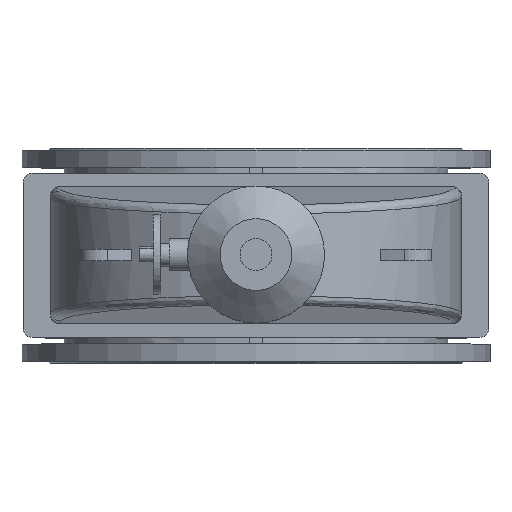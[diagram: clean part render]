
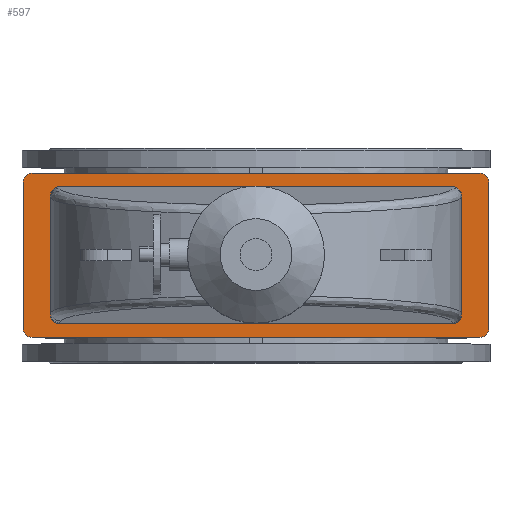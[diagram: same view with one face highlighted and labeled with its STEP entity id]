
A CAD part, top view. The second image highlights one B-rep face of the part: STEP entity #597.
In plain terms, the highlighted planar face has unit normal (0, 0, 1).
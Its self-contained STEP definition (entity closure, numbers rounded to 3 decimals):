
#597=ADVANCED_FACE('',(#4014,#4016),#4018,.T.);
#4014=FACE_BOUND('',#4015,.T.);
#4015=EDGE_LOOP('',(#8478,#8479,#8480,#8481,#8482,#8483,#8484,#8485));
#4016=FACE_BOUND('',#4017,.T.);
#4017=EDGE_LOOP('',(#8486,#8487,#8488,#8489,#8490,#8491,#8492,#8493));
#4018=PLANE('',#4019);
#4019=AXIS2_PLACEMENT_3D('',#4020,#4021,#4022);
#4020=CARTESIAN_POINT('',(0.,0.,886.));
#4021=DIRECTION('',(0.,-0.,1.));
#4022=DIRECTION('',(0.,1.,0.));
#8478=ORIENTED_EDGE('',*,*,#9736,.F.);
#8479=ORIENTED_EDGE('',*,*,#9737,.T.);
#8480=ORIENTED_EDGE('',*,*,#9738,.F.);
#8481=ORIENTED_EDGE('',*,*,#9739,.T.);
#8482=ORIENTED_EDGE('',*,*,#9740,.F.);
#8483=ORIENTED_EDGE('',*,*,#9741,.T.);
#8484=ORIENTED_EDGE('',*,*,#9742,.F.);
#8485=ORIENTED_EDGE('',*,*,#9743,.T.);
#8486=ORIENTED_EDGE('',*,*,#9734,.F.);
#8487=ORIENTED_EDGE('',*,*,#9733,.F.);
#8488=ORIENTED_EDGE('',*,*,#9735,.F.);
#8489=ORIENTED_EDGE('',*,*,#9708,.F.);
#8490=ORIENTED_EDGE('',*,*,#9744,.F.);
#8491=ORIENTED_EDGE('',*,*,#9745,.F.);
#8492=ORIENTED_EDGE('',*,*,#9746,.F.);
#8493=ORIENTED_EDGE('',*,*,#9701,.F.);
#9701=EDGE_CURVE('',#10424,#10426,#10427,.T.);
#9708=EDGE_CURVE('',#10436,#10434,#10438,.T.);
#9733=EDGE_CURVE('',#10477,#10475,#10479,.T.);
#9734=EDGE_CURVE('',#10475,#10424,#10480,.F.);
#9735=EDGE_CURVE('',#10434,#10477,#10481,.T.);
#9736=EDGE_CURVE('',#10482,#10483,#10484,.F.);
#9737=EDGE_CURVE('',#10482,#10485,#10486,.T.);
#9738=EDGE_CURVE('',#10487,#10485,#10488,.F.);
#9739=EDGE_CURVE('',#10487,#10489,#10490,.T.);
#9740=EDGE_CURVE('',#10491,#10489,#10492,.F.);
#9741=EDGE_CURVE('',#10491,#10493,#10494,.T.);
#9742=EDGE_CURVE('',#10495,#10493,#10496,.F.);
#9743=EDGE_CURVE('',#10495,#10483,#10497,.T.);
#9744=EDGE_CURVE('',#10498,#10436,#10499,.F.);
#9745=EDGE_CURVE('',#10500,#10498,#10501,.T.);
#9746=EDGE_CURVE('',#10426,#10500,#10502,.T.);
#10424=VERTEX_POINT('',#11866);
#10426=VERTEX_POINT('',#11870);
#10427=LINE('',#11871,#11872);
#10434=VERTEX_POINT('',#11891);
#10436=VERTEX_POINT('',#11895);
#10438=LINE('',#11899,#11900);
#10475=VERTEX_POINT('',#11992);
#10477=VERTEX_POINT('',#11996);
#10479=LINE('',#12000,#12001);
#10480=(BOUNDED_CURVE()B_SPLINE_CURVE(3,
(#12003,#12004,#12005,#12006),
.UNSPECIFIED.,.F.,.F.)B_SPLINE_CURVE_WITH_KNOTS((4,4),
(0.,1.),
.UNSPECIFIED.)CURVE()GEOMETRIC_REPRESENTATION_ITEM()RATIONAL_B_SPLINE_CURVE((1.,
0.805,0.805,1.))REPRESENTATION_ITEM(''));
#10481=(BOUNDED_CURVE()B_SPLINE_CURVE(3,
(#12007,#12008,#12009,#12010),
.UNSPECIFIED.,.F.,.F.)B_SPLINE_CURVE_WITH_KNOTS((4,4),
(0.,1.),
.UNSPECIFIED.)CURVE()GEOMETRIC_REPRESENTATION_ITEM()RATIONAL_B_SPLINE_CURVE((1.,
0.805,0.805,1.))REPRESENTATION_ITEM(''));
#10482=VERTEX_POINT('',#12011);
#10483=VERTEX_POINT('',#12012);
#10484=CIRCLE('',#12013,20.);
#10485=VERTEX_POINT('',#12017);
#10486=LINE('',#12018,#12019);
#10487=VERTEX_POINT('',#12021);
#10488=CIRCLE('',#12022,20.);
#10489=VERTEX_POINT('',#12026);
#10490=LINE('',#12027,#12028);
#10491=VERTEX_POINT('',#12030);
#10492=CIRCLE('',#12031,20.);
#10493=VERTEX_POINT('',#12035);
#10494=LINE('',#12036,#12037);
#10495=VERTEX_POINT('',#12039);
#10496=CIRCLE('',#12040,20.);
#10497=LINE('',#12044,#12045);
#10498=VERTEX_POINT('',#12047);
#10499=(BOUNDED_CURVE()B_SPLINE_CURVE(3,
(#12048,#12049,#12050,#12051),
.UNSPECIFIED.,.F.,.F.)B_SPLINE_CURVE_WITH_KNOTS((4,4),
(0.,1.),
.UNSPECIFIED.)CURVE()GEOMETRIC_REPRESENTATION_ITEM()RATIONAL_B_SPLINE_CURVE((1.,
0.805,0.805,1.))REPRESENTATION_ITEM(''));
#10500=VERTEX_POINT('',#12052);
#10501=LINE('',#12053,#12054);
#10502=(BOUNDED_CURVE()B_SPLINE_CURVE(3,
(#12056,#12057,#12058,#12059),
.UNSPECIFIED.,.F.,.F.)B_SPLINE_CURVE_WITH_KNOTS((4,4),
(0.,1.),
.UNSPECIFIED.)CURVE()GEOMETRIC_REPRESENTATION_ITEM()RATIONAL_B_SPLINE_CURVE((1.,
0.805,0.805,1.))REPRESENTATION_ITEM(''));
#11866=CARTESIAN_POINT('',(450.,-129.924,886.));
#11870=CARTESIAN_POINT('',(450.,129.924,886.));
#11871=CARTESIAN_POINT('',(450.,-129.924,886.));
#11872=VECTOR('',#11873,1.);
#11873=DIRECTION('',(0.,1.,0.));
#11891=CARTESIAN_POINT('',(-450.,-129.924,886.));
#11895=CARTESIAN_POINT('',(-450.,129.924,886.));
#11899=CARTESIAN_POINT('',(-450.,129.924,886.));
#11900=VECTOR('',#11901,1.);
#11901=DIRECTION('',(0.,-1.,0.));
#11992=CARTESIAN_POINT('',(430.,-150.,886.));
#11996=CARTESIAN_POINT('',(-430.,-150.,886.));
#12000=CARTESIAN_POINT('',(-430.,-150.,886.));
#12001=VECTOR('',#12002,1.);
#12002=DIRECTION('',(1.,0.,0.));
#12003=CARTESIAN_POINT('',(450.,-129.924,886.));
#12004=CARTESIAN_POINT('',(450.,-141.684,886.));
#12005=CARTESIAN_POINT('',(441.716,-150.,886.));
#12006=CARTESIAN_POINT('',(430.,-150.,886.));
#12007=CARTESIAN_POINT('',(-450.,-129.924,886.));
#12008=CARTESIAN_POINT('',(-450.,-141.684,886.));
#12009=CARTESIAN_POINT('',(-441.716,-150.,886.));
#12010=CARTESIAN_POINT('',(-430.,-150.,886.));
#12011=CARTESIAN_POINT('',(-490.,-180.,886.));
#12012=CARTESIAN_POINT('',(-510.,-160.,886.));
#12013=AXIS2_PLACEMENT_3D('',#12014,#12015,#12016);
#12014=CARTESIAN_POINT('',(-490.,-160.,886.));
#12015=DIRECTION('',(0.,-0.,1.));
#12016=DIRECTION('',(-1.,0.,0.));
#12017=CARTESIAN_POINT('',(490.,-180.,886.));
#12018=CARTESIAN_POINT('',(-490.,-180.,886.));
#12019=VECTOR('',#12020,1.);
#12020=DIRECTION('',(1.,0.,0.));
#12021=CARTESIAN_POINT('',(510.,-160.,886.));
#12022=AXIS2_PLACEMENT_3D('',#12023,#12024,#12025);
#12023=CARTESIAN_POINT('',(490.,-160.,886.));
#12024=DIRECTION('',(0.,-0.,1.));
#12025=DIRECTION('',(0.,-1.,0.));
#12026=CARTESIAN_POINT('',(510.,160.,886.));
#12027=CARTESIAN_POINT('',(510.,-160.,886.));
#12028=VECTOR('',#12029,1.);
#12029=DIRECTION('',(0.,1.,0.));
#12030=CARTESIAN_POINT('',(490.,180.,886.));
#12031=AXIS2_PLACEMENT_3D('',#12032,#12033,#12034);
#12032=CARTESIAN_POINT('',(490.,160.,886.));
#12033=DIRECTION('',(0.,-0.,1.));
#12034=DIRECTION('',(1.,0.,0.));
#12035=CARTESIAN_POINT('',(-490.,180.,886.));
#12036=CARTESIAN_POINT('',(490.,180.,886.));
#12037=VECTOR('',#12038,1.);
#12038=DIRECTION('',(-1.,0.,0.));
#12039=CARTESIAN_POINT('',(-510.,160.,886.));
#12040=AXIS2_PLACEMENT_3D('',#12041,#12042,#12043);
#12041=CARTESIAN_POINT('',(-490.,160.,886.));
#12042=DIRECTION('',(0.,-0.,1.));
#12043=DIRECTION('',(0.,1.,0.));
#12044=CARTESIAN_POINT('',(-510.,160.,886.));
#12045=VECTOR('',#12046,1.);
#12046=DIRECTION('',(0.,-1.,0.));
#12047=CARTESIAN_POINT('',(-430.,150.,886.));
#12048=CARTESIAN_POINT('',(-450.,129.924,886.));
#12049=CARTESIAN_POINT('',(-450.,141.684,886.));
#12050=CARTESIAN_POINT('',(-441.716,150.,886.));
#12051=CARTESIAN_POINT('',(-430.,150.,886.));
#12052=CARTESIAN_POINT('',(430.,150.,886.));
#12053=CARTESIAN_POINT('',(430.,150.,886.));
#12054=VECTOR('',#12055,1.);
#12055=DIRECTION('',(-1.,0.,0.));
#12056=CARTESIAN_POINT('',(450.,129.924,886.));
#12057=CARTESIAN_POINT('',(450.,141.684,886.));
#12058=CARTESIAN_POINT('',(441.716,150.,886.));
#12059=CARTESIAN_POINT('',(430.,150.,886.));
